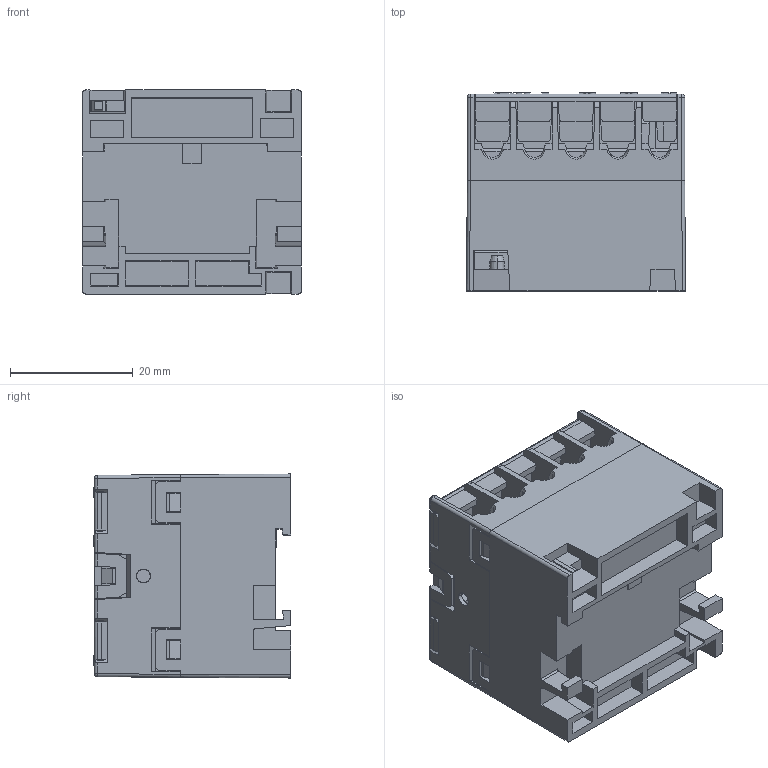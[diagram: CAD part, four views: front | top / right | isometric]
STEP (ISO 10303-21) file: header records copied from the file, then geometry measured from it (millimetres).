
FILE_DESCRIPTION (( 'STEP AP203' ), '1' );
FILE_NAME ('K0-05D00-22.STEP', '2013-06-26T06:11:51', ( 'edv' ), ( '' ), 'SwSTEP 2.0', 'SolidWorks 2013', '' );
FILE_SCHEMA (( 'CONFIG_CONTROL_DESIGN' ));
Length unit declared in the file: millimetre
Products named in the file (4): 65495_7 P1017-40; 65496_K0-05D00-22; K0-05D00-22; 65494_Haken gerade
Assembly tree (3 placements, depth 2):
  K0-05D00-22
    65494_Haken gerade
    65495_7 P1017-40
    65496_K0-05D00-22
Bounding box: 35.59 x 32.2 x 33.19 mm (x, y, z)
Volume: 10993.5 mm3; surface area: 20320 mm2
Topology: 3 solids, 3 shells, 2196 faces, 6194 edges, 4049 vertices
Faces by surface type: plane 1528, bspline 280, cylinder 224, cone 140, torus 20, sphere 4
Entity records: 84693 total; most frequent: CARTESIAN_POINT 30576, ORIENTED_EDGE 12380, DIRECTION 9291, EDGE_CURVE 6190, LINE 4543, VECTOR 4543, VERTEX_POINT 4049, AXIS2_PLACEMENT_3D 2374
